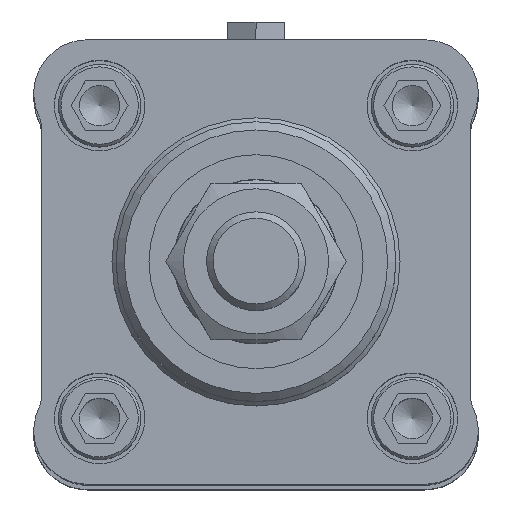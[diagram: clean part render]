
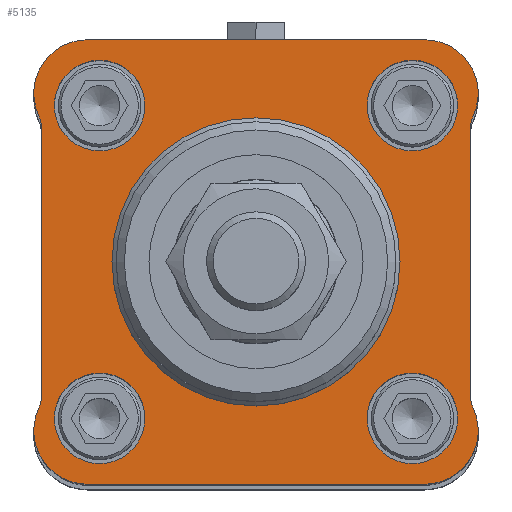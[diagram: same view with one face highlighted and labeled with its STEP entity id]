
A CAD part, top view. The second image highlights one B-rep face of the part: STEP entity #5135.
In plain terms, the highlighted planar face has unit normal (0, 0, 1) as drawn and (-1, 0, 0) by its records, which use the part's own axes.
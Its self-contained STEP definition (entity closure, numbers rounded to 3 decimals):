
#201=CIRCLE('',#5492,17.5);
#207=CIRCLE('',#5504,6.5);
#209=CIRCLE('',#5507,4.5);
#211=CIRCLE('',#5511,4.5);
#213=CIRCLE('',#5514,6.5);
#215=CIRCLE('',#5518,6.5);
#217=CIRCLE('',#5521,4.5);
#219=CIRCLE('',#5525,4.5);
#221=CIRCLE('',#5528,6.5);
#222=CIRCLE('',#5530,5.5);
#223=CIRCLE('',#5531,5.5);
#224=CIRCLE('',#5532,5.5);
#225=CIRCLE('',#5533,5.5);
#907=ORIENTED_EDGE('',*,*,#1552,.T.);
#908=ORIENTED_EDGE('',*,*,#1553,.T.);
#909=ORIENTED_EDGE('',*,*,#1554,.T.);
#910=ORIENTED_EDGE('',*,*,#1555,.T.);
#911=ORIENTED_EDGE('',*,*,#1511,.F.);
#912=ORIENTED_EDGE('',*,*,#1518,.F.);
#913=ORIENTED_EDGE('',*,*,#1551,.F.);
#914=ORIENTED_EDGE('',*,*,#1548,.T.);
#915=ORIENTED_EDGE('',*,*,#1545,.F.);
#916=ORIENTED_EDGE('',*,*,#1542,.T.);
#917=ORIENTED_EDGE('',*,*,#1539,.F.);
#918=ORIENTED_EDGE('',*,*,#1536,.F.);
#919=ORIENTED_EDGE('',*,*,#1533,.F.);
#920=ORIENTED_EDGE('',*,*,#1530,.T.);
#921=ORIENTED_EDGE('',*,*,#1527,.F.);
#922=ORIENTED_EDGE('',*,*,#1524,.T.);
#923=ORIENTED_EDGE('',*,*,#1521,.F.);
#1511=EDGE_CURVE('',#1904,#1904,#201,.F.);
#1518=EDGE_CURVE('',#1911,#1912,#2204,.T.);
#1521=EDGE_CURVE('',#1912,#1914,#207,.T.);
#1524=EDGE_CURVE('',#1916,#1914,#209,.T.);
#1527=EDGE_CURVE('',#1916,#1918,#2209,.T.);
#1530=EDGE_CURVE('',#1920,#1918,#211,.T.);
#1533=EDGE_CURVE('',#1920,#1922,#213,.T.);
#1536=EDGE_CURVE('',#1922,#1924,#2214,.T.);
#1539=EDGE_CURVE('',#1924,#1926,#215,.T.);
#1542=EDGE_CURVE('',#1928,#1926,#217,.T.);
#1545=EDGE_CURVE('',#1928,#1930,#2219,.T.);
#1548=EDGE_CURVE('',#1932,#1930,#219,.T.);
#1551=EDGE_CURVE('',#1932,#1911,#221,.T.);
#1552=EDGE_CURVE('',#1933,#1933,#222,.T.);
#1553=EDGE_CURVE('',#1934,#1934,#223,.T.);
#1554=EDGE_CURVE('',#1935,#1935,#224,.T.);
#1555=EDGE_CURVE('',#1936,#1936,#225,.T.);
#1904=VERTEX_POINT('',#7420);
#1911=VERTEX_POINT('',#7438);
#1912=VERTEX_POINT('',#7440);
#1914=VERTEX_POINT('',#7446);
#1916=VERTEX_POINT('',#7452);
#1918=VERTEX_POINT('',#7458);
#1920=VERTEX_POINT('',#7464);
#1922=VERTEX_POINT('',#7470);
#1924=VERTEX_POINT('',#7476);
#1926=VERTEX_POINT('',#7482);
#1928=VERTEX_POINT('',#7488);
#1930=VERTEX_POINT('',#7494);
#1932=VERTEX_POINT('',#7500);
#1933=VERTEX_POINT('',#7507);
#1934=VERTEX_POINT('',#7509);
#1935=VERTEX_POINT('',#7511);
#1936=VERTEX_POINT('',#7513);
#2204=LINE('',#7439,#2442);
#2209=LINE('',#7457,#2447);
#2214=LINE('',#7475,#2452);
#2219=LINE('',#7493,#2457);
#2442=VECTOR('',#6337,1000.);
#2447=VECTOR('',#6356,1000.);
#2452=VECTOR('',#6375,1000.);
#2457=VECTOR('',#6394,1000.);
#2744=EDGE_LOOP('',(#907));
#2745=EDGE_LOOP('',(#908));
#2746=EDGE_LOOP('',(#909));
#2747=EDGE_LOOP('',(#910));
#2748=EDGE_LOOP('',(#911));
#2749=EDGE_LOOP('',(#912,#913,#914,#915,#916,#917,#918,#919,#920,#921,#922,
#923));
#3149=FACE_BOUND('',#2744,.T.);
#3150=FACE_BOUND('',#2745,.T.);
#3151=FACE_BOUND('',#2746,.T.);
#3152=FACE_BOUND('',#2747,.T.);
#3153=FACE_BOUND('',#2748,.T.);
#3154=FACE_BOUND('',#2749,.T.);
#3407=PLANE('',#5529);
#5135=ADVANCED_FACE('',(#3149,#3150,#3151,#3152,#3153,#3154),#3407,.F.);
#5492=AXIS2_PLACEMENT_3D('',#7419,#6315,#6316);
#5504=AXIS2_PLACEMENT_3D('',#7445,#6343,#6344);
#5507=AXIS2_PLACEMENT_3D('',#7451,#6350,#6351);
#5511=AXIS2_PLACEMENT_3D('',#7463,#6362,#6363);
#5514=AXIS2_PLACEMENT_3D('',#7469,#6369,#6370);
#5518=AXIS2_PLACEMENT_3D('',#7481,#6381,#6382);
#5521=AXIS2_PLACEMENT_3D('',#7487,#6388,#6389);
#5525=AXIS2_PLACEMENT_3D('',#7499,#6400,#6401);
#5528=AXIS2_PLACEMENT_3D('',#7504,#6407,#6408);
#5529=AXIS2_PLACEMENT_3D('',#7505,#6409,#6410);
#5530=AXIS2_PLACEMENT_3D('',#7506,#6411,#6412);
#5531=AXIS2_PLACEMENT_3D('',#7508,#6413,#6414);
#5532=AXIS2_PLACEMENT_3D('',#7510,#6415,#6416);
#5533=AXIS2_PLACEMENT_3D('',#7512,#6417,#6418);
#6315=DIRECTION('',(1.,0.,0.));
#6316=DIRECTION('',(0.,0.,-1.));
#6337=DIRECTION('',(0.,-1.,0.));
#6343=DIRECTION('',(1.,0.,0.));
#6344=DIRECTION('',(0.,0.,-1.));
#6350=DIRECTION('',(1.,0.,0.));
#6351=DIRECTION('',(0.,0.,-1.));
#6356=DIRECTION('',(0.,0.,-1.));
#6362=DIRECTION('',(1.,0.,0.));
#6363=DIRECTION('',(0.,0.,-1.));
#6369=DIRECTION('',(1.,0.,0.));
#6370=DIRECTION('',(0.,0.,-1.));
#6375=DIRECTION('',(0.,1.,0.));
#6381=DIRECTION('',(1.,0.,0.));
#6382=DIRECTION('',(0.,0.,-1.));
#6388=DIRECTION('',(1.,0.,0.));
#6389=DIRECTION('',(0.,0.,-1.));
#6394=DIRECTION('',(0.,0.,1.));
#6400=DIRECTION('',(1.,0.,0.));
#6401=DIRECTION('',(0.,0.,-1.));
#6407=DIRECTION('',(1.,0.,0.));
#6408=DIRECTION('',(0.,0.,-1.));
#6409=DIRECTION('',(1.,0.,0.));
#6410=DIRECTION('',(0.,0.,-1.));
#6411=DIRECTION('',(1.,0.,0.));
#6412=DIRECTION('',(0.,0.,-1.));
#6413=DIRECTION('',(1.,0.,0.));
#6414=DIRECTION('',(0.,0.,-1.));
#6415=DIRECTION('',(1.,0.,0.));
#6416=DIRECTION('',(0.,0.,-1.));
#6417=DIRECTION('',(1.,0.,0.));
#6418=DIRECTION('',(0.,0.,-1.));
#7419=CARTESIAN_POINT('',(-30.,0.,0.));
#7420=CARTESIAN_POINT('',(-30.,0.,-17.5));
#7438=CARTESIAN_POINT('',(-30.,20.5,27.));
#7439=CARTESIAN_POINT('',(-30.,20.5,27.));
#7440=CARTESIAN_POINT('',(-30.,-20.5,27.));
#7445=CARTESIAN_POINT('',(-30.,-20.5,20.5));
#7446=CARTESIAN_POINT('',(-30.,-26.409,17.792));
#7451=CARTESIAN_POINT('',(-30.,-30.5,15.917));
#7452=CARTESIAN_POINT('',(-30.,-26.,15.917));
#7457=CARTESIAN_POINT('',(-30.,-26.,15.917));
#7458=CARTESIAN_POINT('',(-30.,-26.,-15.917));
#7463=CARTESIAN_POINT('',(-30.,-30.5,-15.917));
#7464=CARTESIAN_POINT('',(-30.,-26.409,-17.792));
#7469=CARTESIAN_POINT('',(-30.,-20.5,-20.5));
#7470=CARTESIAN_POINT('',(-30.,-20.5,-27.));
#7475=CARTESIAN_POINT('',(-30.,-20.5,-27.));
#7476=CARTESIAN_POINT('',(-30.,20.5,-27.));
#7481=CARTESIAN_POINT('',(-30.,20.5,-20.5));
#7482=CARTESIAN_POINT('',(-30.,26.409,-17.792));
#7487=CARTESIAN_POINT('',(-30.,30.5,-15.917));
#7488=CARTESIAN_POINT('',(-30.,26.,-15.917));
#7493=CARTESIAN_POINT('',(-30.,26.,-15.917));
#7494=CARTESIAN_POINT('',(-30.,26.,15.917));
#7499=CARTESIAN_POINT('',(-30.,30.5,15.917));
#7500=CARTESIAN_POINT('',(-30.,26.409,17.792));
#7504=CARTESIAN_POINT('',(-30.,20.5,20.5));
#7505=CARTESIAN_POINT('',(-30.,-20.5,20.5));
#7506=CARTESIAN_POINT('',(-30.,-19.,19.));
#7507=CARTESIAN_POINT('',(-30.,-19.,13.5));
#7508=CARTESIAN_POINT('',(-30.,-19.,-19.));
#7509=CARTESIAN_POINT('',(-30.,-19.,-24.5));
#7510=CARTESIAN_POINT('',(-30.,19.,-19.));
#7511=CARTESIAN_POINT('',(-30.,19.,-24.5));
#7512=CARTESIAN_POINT('',(-30.,19.,19.));
#7513=CARTESIAN_POINT('',(-30.,19.,13.5));
